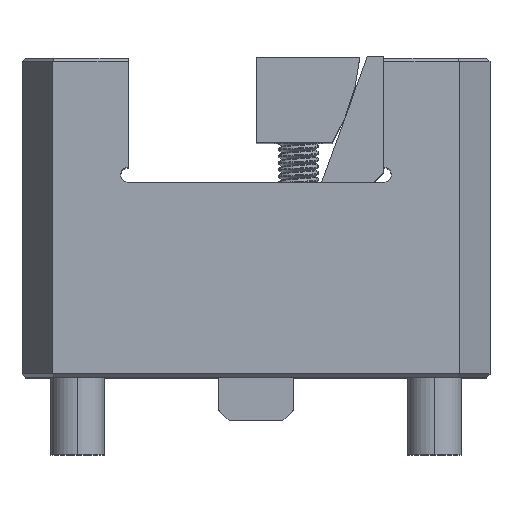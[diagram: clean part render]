
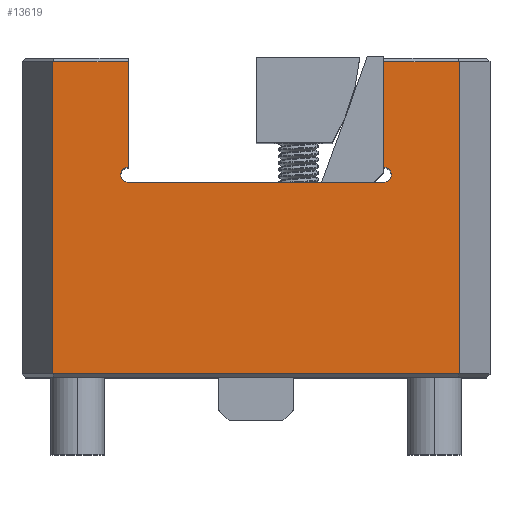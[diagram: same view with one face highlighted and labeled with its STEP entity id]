
A CAD part, top view. The second image highlights one B-rep face of the part: STEP entity #13619.
In plain terms, the highlighted planar face has unit normal (0, 0, 1).
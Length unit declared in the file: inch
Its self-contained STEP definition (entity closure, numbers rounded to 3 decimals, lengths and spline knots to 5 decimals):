
#104 = VERTEX_POINT ( 'NONE', #10176 ) ;
#552 = CIRCLE ( 'NONE', #16645, 0.045 ) ;
#784 = CARTESIAN_POINT ( 'NONE',  ( -0.795, 1.19, 3.5 ) ) ;
#888 = EDGE_LOOP ( 'NONE', ( #5674, #8505, #13457, #11295, #18141, #9802, #16712, #6465, #17963, #9353, #9771 ) ) ;
#899 = CARTESIAN_POINT ( 'NONE',  ( 0.75, 1.235, 3.5 ) ) ;
#970 = VERTEX_POINT ( 'NONE', #4744 ) ;
#1222 = CIRCLE ( 'NONE', #19539, 0.045 ) ;
#1362 = VECTOR ( 'NONE', #2264, 39.37008 ) ;
#1557 = VECTOR ( 'NONE', #17389, 39.37008 ) ;
#1710 = DIRECTION ( 'NONE',  ( 0., 0., -1. ) ) ;
#2040 = VECTOR ( 'NONE', #13341, 39.37008 ) ;
#2264 = DIRECTION ( 'NONE',  ( -1., 0., 0. ) ) ;
#2696 = LINE ( 'NONE', #7343, #15055 ) ;
#2738 = DIRECTION ( 'NONE',  ( 1., 0., 0. ) ) ;
#2940 = CARTESIAN_POINT ( 'NONE',  ( 1.19602, 1.875, 3.5 ) ) ;
#2958 = VERTEX_POINT ( 'NONE', #10624 ) ;
#3086 = DIRECTION ( 'NONE',  ( 1., 0., 0. ) ) ;
#3439 = DIRECTION ( 'NONE',  ( 1., 0., 0. ) ) ;
#3463 = VECTOR ( 'NONE', #16474, 39.37008 ) ;
#4013 = EDGE_CURVE ( 'NONE', #2958, #13964, #11383, .T. ) ;
#4519 = CIRCLE ( 'NONE', #6774, 0.045 ) ;
#4744 = CARTESIAN_POINT ( 'NONE',  ( -1.19602, 1.855, 3.5 ) ) ;
#4865 = CARTESIAN_POINT ( 'NONE',  ( 0.75, 1.145, 3.5 ) ) ;
#5151 = CARTESIAN_POINT ( 'NONE',  ( 0.75, 1.235, 3.5 ) ) ;
#5211 = CARTESIAN_POINT ( 'NONE',  ( 1.19602, 1.855, 3.5 ) ) ;
#5578 = CARTESIAN_POINT ( 'NONE',  ( 0.75, 1.855, 3.5 ) ) ;
#5674 = ORIENTED_EDGE ( 'NONE', *, *, #6066, .T. ) ;
#5776 = EDGE_CURVE ( 'NONE', #7300, #18567, #4519, .T. ) ;
#5869 = VERTEX_POINT ( 'NONE', #4865 ) ;
#5972 = VECTOR ( 'NONE', #8347, 39.37008 ) ;
#6066 = EDGE_CURVE ( 'NONE', #16132, #10217, #7311, .T. ) ;
#6465 = ORIENTED_EDGE ( 'NONE', *, *, #4013, .T. ) ;
#6506 = DIRECTION ( 'NONE',  ( 0., 0., 1. ) ) ;
#6651 = LINE ( 'NONE', #5151, #5972 ) ;
#6774 = AXIS2_PLACEMENT_3D ( 'NONE', #9250, #1710, #3086 ) ;
#7300 = VERTEX_POINT ( 'NONE', #17446 ) ;
#7311 = LINE ( 'NONE', #2940, #2040 ) ;
#7343 = CARTESIAN_POINT ( 'NONE',  ( -0.75, 1.145, 3.5 ) ) ;
#7381 = EDGE_CURVE ( 'NONE', #13313, #5869, #552, .T. ) ;
#7429 = EDGE_CURVE ( 'NONE', #5869, #7300, #2696, .T. ) ;
#8014 = CARTESIAN_POINT ( 'NONE',  ( 0.75, 1.19, 3.5 ) ) ;
#8057 = VECTOR ( 'NONE', #11941, 39.37008 ) ;
#8199 = VERTEX_POINT ( 'NONE', #5578 ) ;
#8330 = DIRECTION ( 'NONE',  ( 1., 0., 0. ) ) ;
#8347 = DIRECTION ( 'NONE',  ( 0., -1., 0. ) ) ;
#8505 = ORIENTED_EDGE ( 'NONE', *, *, #17119, .T. ) ;
#8943 = EDGE_CURVE ( 'NONE', #8199, #13313, #6651, .T. ) ;
#9250 = CARTESIAN_POINT ( 'NONE',  ( -0.75, 1.19, 3.5 ) ) ;
#9353 = ORIENTED_EDGE ( 'NONE', *, *, #10508, .T. ) ;
#9400 = FACE_OUTER_BOUND ( 'NONE', #888, .T. ) ;
#9771 = ORIENTED_EDGE ( 'NONE', *, *, #15165, .T. ) ;
#9802 = ORIENTED_EDGE ( 'NONE', *, *, #5776, .T. ) ;
#9811 = CARTESIAN_POINT ( 'NONE',  ( -0.75, 1.875, 3.5 ) ) ;
#9861 = EDGE_CURVE ( 'NONE', #18567, #2958, #1222, .T. ) ;
#10176 = CARTESIAN_POINT ( 'NONE',  ( -1.19602, 0.02, 3.5 ) ) ;
#10217 = VERTEX_POINT ( 'NONE', #5211 ) ;
#10235 = DIRECTION ( 'NONE',  ( 1., 0., 0. ) ) ;
#10471 = CARTESIAN_POINT ( 'NONE',  ( 0.75, 1.855, 3.5 ) ) ;
#10508 = EDGE_CURVE ( 'NONE', #970, #104, #12037, .T. ) ;
#10624 = CARTESIAN_POINT ( 'NONE',  ( -0.75, 1.235, 3.5 ) ) ;
#10885 = CARTESIAN_POINT ( 'NONE',  ( 1.19602, 0.02, 3.5 ) ) ;
#11035 = AXIS2_PLACEMENT_3D ( 'NONE', #8014, #6506, #3439 ) ;
#11179 = LINE ( 'NONE', #14324, #1362 ) ;
#11295 = ORIENTED_EDGE ( 'NONE', *, *, #7381, .T. ) ;
#11383 = LINE ( 'NONE', #9811, #1557 ) ;
#11496 = EDGE_CURVE ( 'NONE', #13964, #970, #11179, .T. ) ;
#11809 = CARTESIAN_POINT ( 'NONE',  ( 0.75, 1.19, 3.5 ) ) ;
#11941 = DIRECTION ( 'NONE',  ( 0., -1., 0. ) ) ;
#12037 = LINE ( 'NONE', #18055, #8057 ) ;
#13005 = DIRECTION ( 'NONE',  ( 0., 0., -1. ) ) ;
#13282 = DIRECTION ( 'NONE',  ( -1., 0., 0. ) ) ;
#13313 = VERTEX_POINT ( 'NONE', #899 ) ;
#13341 = DIRECTION ( 'NONE',  ( 0., 1., 0. ) ) ;
#13457 = ORIENTED_EDGE ( 'NONE', *, *, #8943, .T. ) ;
#13619 = ADVANCED_FACE ( 'NONE', ( #9400 ), #13825, .T. ) ;
#13825 = PLANE ( 'NONE',  #11035 ) ;
#13964 = VERTEX_POINT ( 'NONE', #17247 ) ;
#14324 = CARTESIAN_POINT ( 'NONE',  ( -1.19602, 1.855, 3.5 ) ) ;
#14799 = CARTESIAN_POINT ( 'NONE',  ( 1.19602, 0.02, 3.5 ) ) ;
#15055 = VECTOR ( 'NONE', #13282, 39.37008 ) ;
#15165 = EDGE_CURVE ( 'NONE', #104, #16132, #19363, .T. ) ;
#15624 = CARTESIAN_POINT ( 'NONE',  ( -0.75, 1.19, 3.5 ) ) ;
#16132 = VERTEX_POINT ( 'NONE', #10885 ) ;
#16474 = DIRECTION ( 'NONE',  ( -1., 0., 0. ) ) ;
#16645 = AXIS2_PLACEMENT_3D ( 'NONE', #11809, #13005, #10235 ) ;
#16712 = ORIENTED_EDGE ( 'NONE', *, *, #9861, .T. ) ;
#17119 = EDGE_CURVE ( 'NONE', #10217, #8199, #19452, .T. ) ;
#17247 = CARTESIAN_POINT ( 'NONE',  ( -0.75, 1.855, 3.5 ) ) ;
#17389 = DIRECTION ( 'NONE',  ( 0., 1., 0. ) ) ;
#17446 = CARTESIAN_POINT ( 'NONE',  ( -0.75, 1.145, 3.5 ) ) ;
#17963 = ORIENTED_EDGE ( 'NONE', *, *, #11496, .T. ) ;
#18055 = CARTESIAN_POINT ( 'NONE',  ( -1.19602, 0., 3.5 ) ) ;
#18141 = ORIENTED_EDGE ( 'NONE', *, *, #7429, .T. ) ;
#18567 = VERTEX_POINT ( 'NONE', #784 ) ;
#18619 = VECTOR ( 'NONE', #2738, 39.37008 ) ;
#18704 = DIRECTION ( 'NONE',  ( 0., 0., -1. ) ) ;
#19363 = LINE ( 'NONE', #14799, #18619 ) ;
#19452 = LINE ( 'NONE', #10471, #3463 ) ;
#19539 = AXIS2_PLACEMENT_3D ( 'NONE', #15624, #18704, #8330 ) ;
